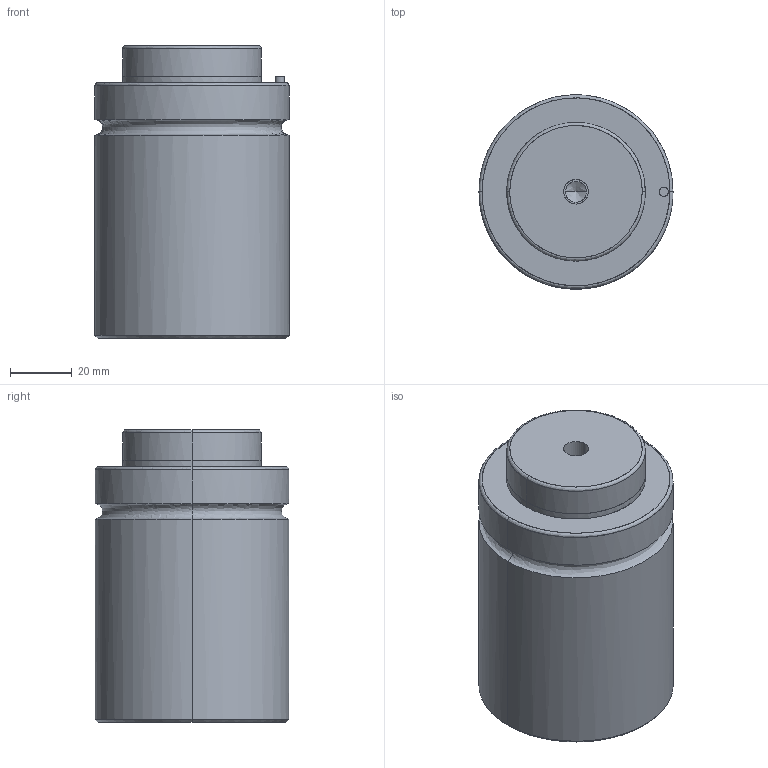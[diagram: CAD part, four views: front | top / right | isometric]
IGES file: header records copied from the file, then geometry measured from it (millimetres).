
Global section: file name: E:\UnigraphicsGraphicData\MISUMI_PRESS-PARTS\IGES\3d_gsm63-10_03902_r00.igs; native system: NX V5.0; preprocessor: UGS NX IGES V5.0; author: MISUMI; date: 20110105.160817; units: millimetre
Bounding box: 63 x 62.94 x 95 mm (x, y, z)
Surface area: 26044.6 mm2 (no closed solid volume)
Topology: 0 solids, 0 shells, 50 faces, 344 edges, 336 vertices
Faces by surface type: bspline 50
